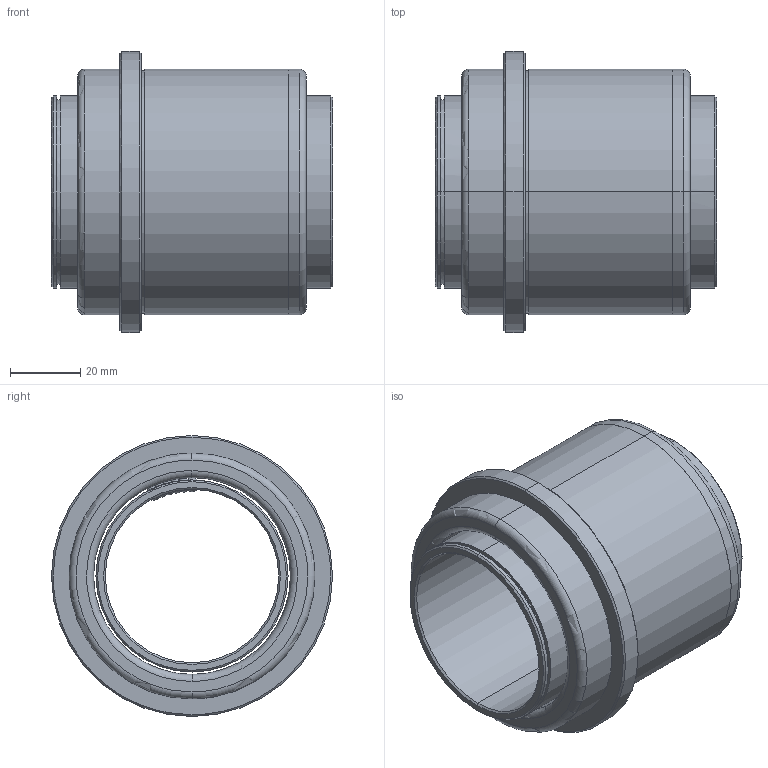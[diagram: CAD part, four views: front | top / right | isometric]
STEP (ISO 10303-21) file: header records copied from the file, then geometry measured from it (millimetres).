
FILE_DESCRIPTION(('CATIA V5 STEP Exchange'),'2;1');
FILE_NAME('C:\Users\Utente\Desktop\IO LAVORO\3D X SITO CF\X SITO\732\732-48.stp','2021-01-10T19:19:50+00:00',('none'),('none'),'CATIA Version 5 Release 20 GA (IN-10)','CATIA V5 STEP AP203','none');
FILE_SCHEMA(('CONFIG_CONTROL_DESIGN'));
Length unit declared in the file: millimetre
Products named in the file (1): 732-48
Assembly tree (2 placements, depth 2):
  732-48
    #58
    #1477
Bounding box: 80 x 80 x 80 mm (x, y, z)
Volume: 130873.9 mm3; surface area: 57597.9 mm2
Topology: 2 solids, 2 shells, 74 faces, 237 edges, 183 vertices
Faces by surface type: sphere 24, cylinder 20, cone 12, plane 10, torus 8
Entity records: 3237 total; most frequent: CARTESIAN_POINT 1107, ORIENTED_EDGE 474, DIRECTION 330, EDGE_CURVE 237, AXIS2_PLACEMENT_3D 218, VERTEX_POINT 183, CIRCLE 140, EDGE_LOOP 94
